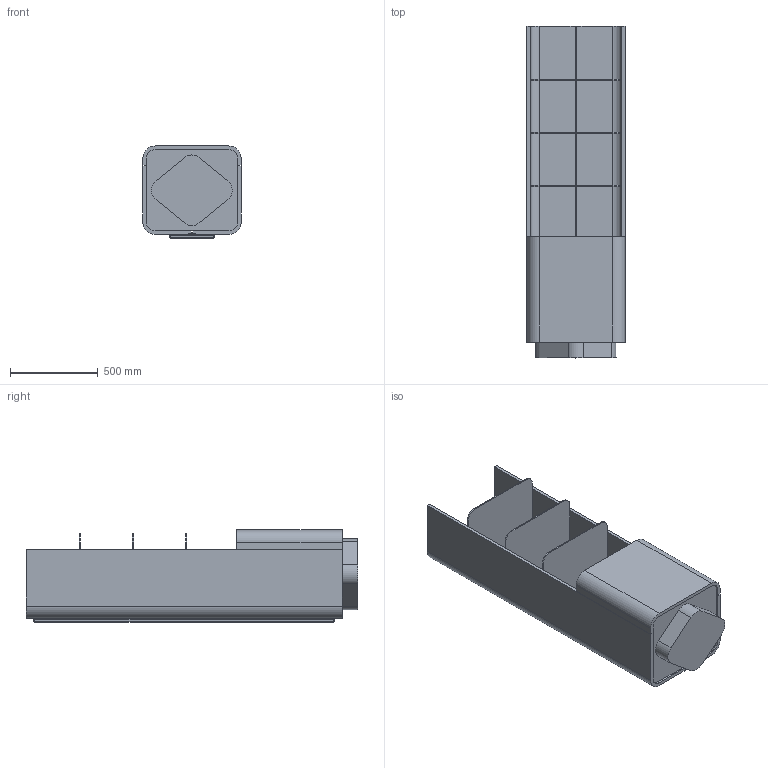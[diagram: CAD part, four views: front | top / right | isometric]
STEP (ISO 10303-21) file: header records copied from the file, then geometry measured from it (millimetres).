
FILE_DESCRIPTION(/* description */ (''),/* implementation_level */ '2;1');
FILE_NAME(/* name */ 'Elitra mobile alto',/* time_stamp */ '2024-10-15T14:09:49+02:00',/* author */ (''),/* organization */ (''),/* preprocessor_version */ 'ST-DEVELOPER v19.2',/* originating_system */ 'Rhino 8.9',/* authorisation */ '');
FILE_SCHEMA (('CONFIG_CONTROL_DESIGN'));
Length unit declared in the file: millimetre
Products named in the file (4): Document; 005932; 005943; 005927_B
Bounding box: 560 x 1890 x 524 mm (x, y, z)
Volume: 90357562.5 mm3; surface area: 10454450.8 mm2
Topology: 13 solids, 13 shells, 151 faces, 351 edges, 226 vertices
Faces by surface type: plane 90, cylinder 53, bspline 8
Entity records: 3831 total; most frequent: CARTESIAN_POINT 1085, ORIENTED_EDGE 558, DIRECTION 305, EDGE_CURVE 279, AXIS2_PLACEMENT_3D 209, B_SPLINE_CURVE_WITH_KNOTS 197, VERTEX_POINT 178, ADVANCED_FACE 121
